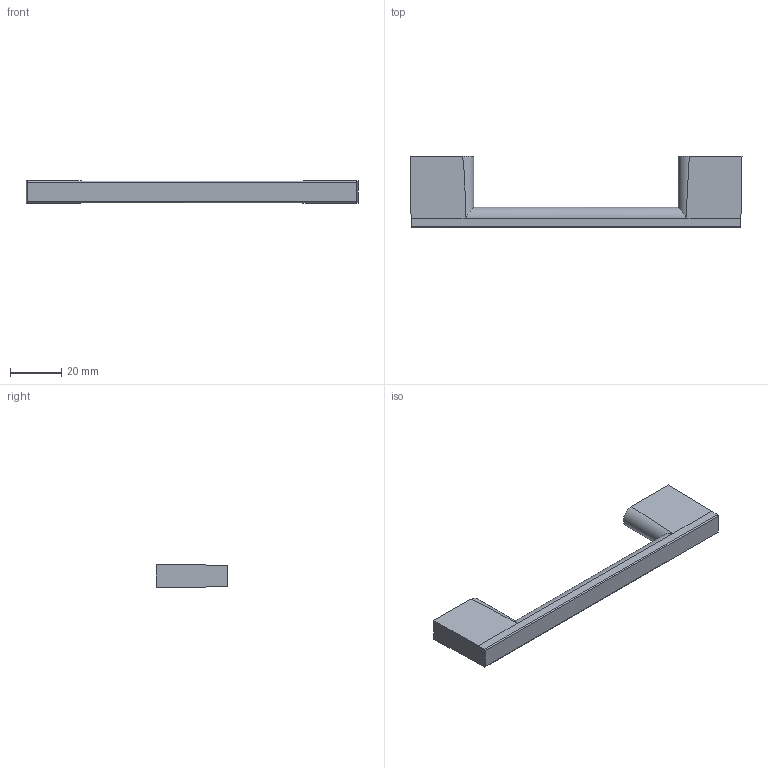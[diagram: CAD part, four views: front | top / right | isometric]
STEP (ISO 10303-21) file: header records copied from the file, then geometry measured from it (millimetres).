
FILE_DESCRIPTION( ( 'STEP AP214' ), '1' );
FILE_NAME( 'C:/Users/KOSH/Desktop/2021/Sunil/New folder/43643.stp', '2021-11-15T13:14:20', ( '' ), ( '' ), ' ', 'PARTsolutions', ' ' );
FILE_SCHEMA( ( 'AUTOMOTIVE_DESIGN { 1 0 10303 214 1 1 1 1 }' ) );
Length unit declared in the file: millimetre
Products named in the file (1): _43643
Bounding box: 130 x 28 x 9 mm (x, y, z)
Volume: 16108.1 mm3; surface area: 7144.5 mm2
Topology: 1 solids, 1 shells, 24 faces, 50 edges, 32 vertices
Faces by surface type: plane 15, cylinder 7, cone 2
Full cylindrical faces by diameter (mm): 4 x2
Entity records: 902 total; most frequent: CARTESIAN_POINT 181, DIRECTION 112, ORIENTED_EDGE 92, EDGE_CURVE 46, AXIS2_PLACEMENT_3D 43, EDGE_LOOP 32, VERTEX_POINT 32, FACE_OUTER_BOUND 26
